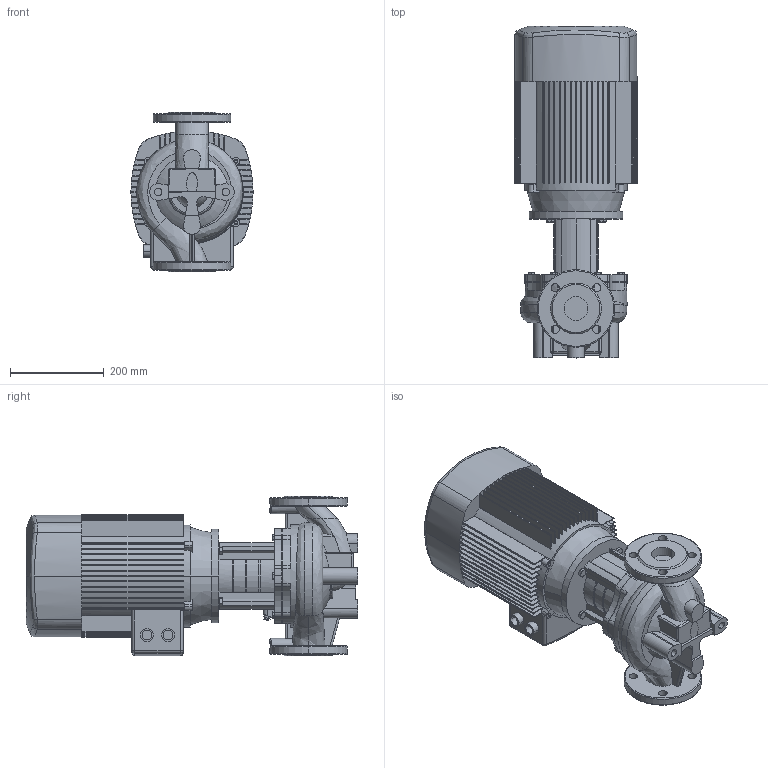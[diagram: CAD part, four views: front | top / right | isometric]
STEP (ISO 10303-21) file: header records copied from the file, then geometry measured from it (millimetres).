
FILE_DESCRIPTION (( 'STEP AP203' ), '1' );
FILE_NAME ('TD50-35G／2.STEP', '2026-09-07T02:15:19', ( '' ), ( '' ), 'SwSTEP 2.0', 'SolidWorks 2020', '' );
FILE_SCHEMA (( 'CONFIG_CONTROL_DESIGN' ));
Products named in the file (1): TD50-35Gㄞ2
Bounding box: 260 x 707 x 340 mm (x, y, z)
Volume: 26472866.6 mm3; surface area: 1375669.3 mm2
Topology: 1 solids, 7 shells, 1038 faces, 2838 edges, 1838 vertices
Faces by surface type: plane 592, cylinder 241, cone 96, bspline 52, torus 51, sphere 6
Entity records: 43026 total; most frequent: CARTESIAN_POINT 16953, ORIENTED_EDGE 5668, DIRECTION 5240, EDGE_CURVE 2834, AXIS2_PLACEMENT_3D 1912, VERTEX_POINT 1838, LINE 1416, VECTOR 1416
